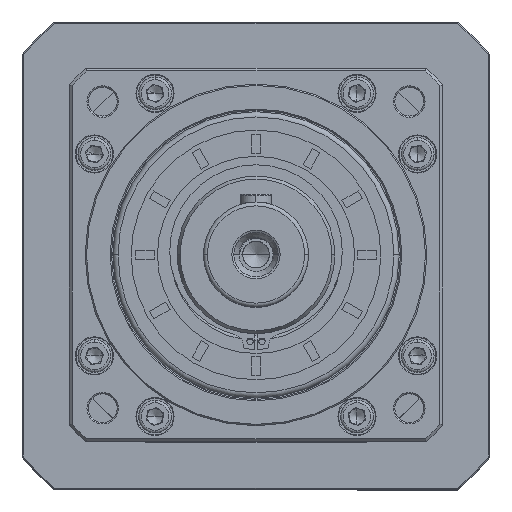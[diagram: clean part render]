
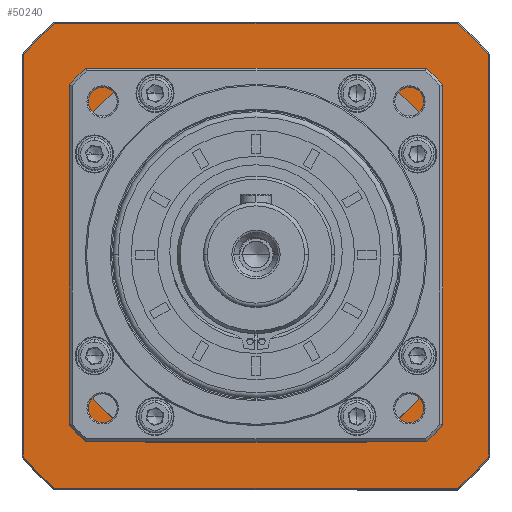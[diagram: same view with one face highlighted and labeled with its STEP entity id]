
A CAD part, top view. The second image highlights one B-rep face of the part: STEP entity #50240.
In plain terms, the highlighted planar face has unit normal (0, 0, 1).
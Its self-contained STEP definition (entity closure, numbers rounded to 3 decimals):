
#1721 = ORIENTED_EDGE ( 'NONE', *, *, #45747, .T. ) ;
#1893 = AXIS2_PLACEMENT_3D ( 'NONE', #107572, #9900, #59367 ) ;
#4185 = ORIENTED_EDGE ( 'NONE', *, *, #109510, .T. ) ;
#4205 = CARTESIAN_POINT ( 'NONE',  ( 186.407, -71.278, 165.15 ) ) ;
#4848 = DIRECTION ( 'NONE',  ( 0., 1., 0. ) ) ;
#5600 = CARTESIAN_POINT ( 'NONE',  ( 97.907, -236.307, 165.15 ) ) ;
#5749 = CARTESIAN_POINT ( 'NONE',  ( 228.285, -89.278, 165.15 ) ) ;
#6339 = DIRECTION ( 'NONE',  ( 0., 0., -1. ) ) ;
#7157 = DIRECTION ( 'NONE',  ( 1., 0., 0. ) ) ;
#7460 = VERTEX_POINT ( 'NONE', #16515 ) ;
#8124 = CIRCLE ( 'NONE', #110316, 117. ) ;
#8673 = EDGE_LOOP ( 'NONE', ( #14792, #121486, #4185, #17467, #84646, #32456, #45013, #97187 ) ) ;
#9071 = DIRECTION ( 'NONE',  ( -1., 0., 0. ) ) ;
#9676 = LINE ( 'NONE', #4205, #113424 ) ;
#9900 = DIRECTION ( 'NONE',  ( 0., 0., 1. ) ) ;
#10310 = CARTESIAN_POINT ( 'NONE',  ( 115.907, -117.9, 165.15 ) ) ;
#10880 = VECTOR ( 'NONE', #4848, 1000. ) ;
#11850 = VERTEX_POINT ( 'NONE', #107260 ) ;
#13795 = CARTESIAN_POINT ( 'NONE',  ( 115.907, -117.763, 165.15 ) ) ;
#14480 = CARTESIAN_POINT ( 'NONE',  ( 186.407, -159.778, 165.15 ) ) ;
#14792 = ORIENTED_EDGE ( 'NONE', *, *, #34849, .T. ) ;
#16507 = DIRECTION ( 'NONE',  ( 0., 0., -1. ) ) ;
#16515 = CARTESIAN_POINT ( 'NONE',  ( 274.907, -83.248, 165.15 ) ) ;
#17467 = ORIENTED_EDGE ( 'NONE', *, *, #94946, .T. ) ;
#18162 = CIRCLE ( 'NONE', #71064, 117. ) ;
#18331 = VERTEX_POINT ( 'NONE', #10310 ) ;
#18880 = AXIS2_PLACEMENT_3D ( 'NONE', #14480, #121474, #63908 ) ;
#19782 = VERTEX_POINT ( 'NONE', #43487 ) ;
#22851 = LINE ( 'NONE', #103843, #30459 ) ;
#23020 = LINE ( 'NONE', #13795, #10880 ) ;
#24371 = CARTESIAN_POINT ( 'NONE',  ( 228.422, -89.278, 165.15 ) ) ;
#24574 = CARTESIAN_POINT ( 'NONE',  ( 186.407, -159.778, 165.15 ) ) ;
#25722 = ORIENTED_EDGE ( 'NONE', *, *, #54461, .T. ) ;
#26218 = VERTEX_POINT ( 'NONE', #26355 ) ;
#26355 = CARTESIAN_POINT ( 'NONE',  ( 144.53, -89.278, 165.15 ) ) ;
#26484 = DIRECTION ( 'NONE',  ( -1., 0., 0. ) ) ;
#27614 = CIRCLE ( 'NONE', #41519, 82. ) ;
#28370 = VECTOR ( 'NONE', #108797, 1000. ) ;
#29613 = VECTOR ( 'NONE', #98703, 1000. ) ;
#30064 = EDGE_CURVE ( 'NONE', #62710, #19782, #8124, .T. ) ;
#30335 = EDGE_LOOP ( 'NONE', ( #1721, #126497, #101005, #54876, #88547, #93653, #68909, #25722 ) ) ;
#30459 = VECTOR ( 'NONE', #47945, 1000. ) ;
#31438 = LINE ( 'NONE', #69615, #28370 ) ;
#31561 = EDGE_CURVE ( 'NONE', #64957, #7460, #57975, .T. ) ;
#32456 = ORIENTED_EDGE ( 'NONE', *, *, #61820, .T. ) ;
#33541 = DIRECTION ( 'NONE',  ( -1., 0., 0. ) ) ;
#33629 = CARTESIAN_POINT ( 'NONE',  ( 274.907, -159.778, 165.15 ) ) ;
#34849 = EDGE_CURVE ( 'NONE', #19782, #37791, #75516, .T. ) ;
#35247 = VERTEX_POINT ( 'NONE', #35882 ) ;
#35882 = CARTESIAN_POINT ( 'NONE',  ( 115.907, -201.656, 165.15 ) ) ;
#37791 = VERTEX_POINT ( 'NONE', #5600 ) ;
#39330 = CIRCLE ( 'NONE', #18880, 117. ) ;
#40074 = VERTEX_POINT ( 'NONE', #98102 ) ;
#41456 = CARTESIAN_POINT ( 'NONE',  ( 262.937, -248.278, 165.15 ) ) ;
#41519 = AXIS2_PLACEMENT_3D ( 'NONE', #103750, #96111, #76559 ) ;
#43487 = CARTESIAN_POINT ( 'NONE',  ( 97.907, -83.248, 165.15 ) ) ;
#45013 = ORIENTED_EDGE ( 'NONE', *, *, #68780, .T. ) ;
#45747 = EDGE_CURVE ( 'NONE', #18331, #26218, #74866, .T. ) ;
#47798 = CARTESIAN_POINT ( 'NONE',  ( 109.878, -71.278, 165.15 ) ) ;
#47945 = DIRECTION ( 'NONE',  ( 1., 0., 0. ) ) ;
#48603 = CARTESIAN_POINT ( 'NONE',  ( 186.407, -159.778, 165.15 ) ) ;
#48748 = VERTEX_POINT ( 'NONE', #5749 ) ;
#49223 = FACE_OUTER_BOUND ( 'NONE', #8673, .T. ) ;
#50240 = ADVANCED_FACE ( 'NONE', ( #49223, #119480 ), #116810, .F. ) ;
#54461 = EDGE_CURVE ( 'NONE', #35247, #18331, #23020, .T. ) ;
#54876 = ORIENTED_EDGE ( 'NONE', *, *, #95473, .T. ) ;
#57692 = DIRECTION ( 'NONE',  ( 0., 0., 1. ) ) ;
#57975 = LINE ( 'NONE', #33629, #80923 ) ;
#58796 = DIRECTION ( 'NONE',  ( 0., -1., 0. ) ) ;
#59296 = EDGE_CURVE ( 'NONE', #95302, #11850, #31438, .T. ) ;
#59367 = DIRECTION ( 'NONE',  ( -1., 0., 0. ) ) ;
#61820 = EDGE_CURVE ( 'NONE', #7460, #93093, #18162, .T. ) ;
#62710 = VERTEX_POINT ( 'NONE', #47798 ) ;
#63908 = DIRECTION ( 'NONE',  ( -1., 0., 0. ) ) ;
#64957 = VERTEX_POINT ( 'NONE', #71973 ) ;
#66539 = CARTESIAN_POINT ( 'NONE',  ( 228.285, -230.278, 165.15 ) ) ;
#66719 = AXIS2_PLACEMENT_3D ( 'NONE', #48603, #107107, #86233 ) ;
#67680 = DIRECTION ( 'NONE',  ( 0., 0., 1. ) ) ;
#68270 = DIRECTION ( 'NONE',  ( 0., 0., -1. ) ) ;
#68780 = EDGE_CURVE ( 'NONE', #93093, #62710, #9676, .T. ) ;
#68909 = ORIENTED_EDGE ( 'NONE', *, *, #72212, .T. ) ;
#69615 = CARTESIAN_POINT ( 'NONE',  ( 144.392, -230.278, 165.15 ) ) ;
#70086 = AXIS2_PLACEMENT_3D ( 'NONE', #75025, #16507, #7157 ) ;
#71064 = AXIS2_PLACEMENT_3D ( 'NONE', #96098, #57692, #26484 ) ;
#71973 = CARTESIAN_POINT ( 'NONE',  ( 274.907, -236.307, 165.15 ) ) ;
#72080 = CARTESIAN_POINT ( 'NONE',  ( 262.937, -71.278, 165.15 ) ) ;
#72212 = EDGE_CURVE ( 'NONE', #11850, #35247, #112142, .T. ) ;
#74866 = CIRCLE ( 'NONE', #70086, 82. ) ;
#75025 = CARTESIAN_POINT ( 'NONE',  ( 186.407, -159.778, 165.15 ) ) ;
#75516 = LINE ( 'NONE', #99533, #29613 ) ;
#76559 = DIRECTION ( 'NONE',  ( 1., 0., 0. ) ) ;
#76638 = VERTEX_POINT ( 'NONE', #81226 ) ;
#76817 = DIRECTION ( 'NONE',  ( -1., 0., 0. ) ) ;
#78404 = VERTEX_POINT ( 'NONE', #41456 ) ;
#80923 = VECTOR ( 'NONE', #110879, 1000. ) ;
#81226 = CARTESIAN_POINT ( 'NONE',  ( 256.907, -117.9, 165.15 ) ) ;
#83534 = DIRECTION ( 'NONE',  ( 1., 0., 0. ) ) ;
#84646 = ORIENTED_EDGE ( 'NONE', *, *, #31561, .T. ) ;
#85604 = AXIS2_PLACEMENT_3D ( 'NONE', #24574, #6339, #83534 ) ;
#86233 = DIRECTION ( 'NONE',  ( 1., 0., 0. ) ) ;
#88547 = ORIENTED_EDGE ( 'NONE', *, *, #115262, .T. ) ;
#93093 = VERTEX_POINT ( 'NONE', #72080 ) ;
#93653 = ORIENTED_EDGE ( 'NONE', *, *, #59296, .T. ) ;
#94946 = EDGE_CURVE ( 'NONE', #78404, #64957, #107603, .T. ) ;
#95302 = VERTEX_POINT ( 'NONE', #66539 ) ;
#95473 = EDGE_CURVE ( 'NONE', #76638, #40074, #105710, .T. ) ;
#96098 = CARTESIAN_POINT ( 'NONE',  ( 186.407, -159.778, 165.15 ) ) ;
#96111 = DIRECTION ( 'NONE',  ( 0., 0., -1. ) ) ;
#97187 = ORIENTED_EDGE ( 'NONE', *, *, #30064, .T. ) ;
#98102 = CARTESIAN_POINT ( 'NONE',  ( 256.907, -201.656, 165.15 ) ) ;
#98703 = DIRECTION ( 'NONE',  ( 0., -1., 0. ) ) ;
#99533 = CARTESIAN_POINT ( 'NONE',  ( 97.907, -159.778, 165.15 ) ) ;
#100355 = CARTESIAN_POINT ( 'NONE',  ( 186.407, -159.778, 165.15 ) ) ;
#101005 = ORIENTED_EDGE ( 'NONE', *, *, #125296, .T. ) ;
#102188 = VECTOR ( 'NONE', #102438, 1000. ) ;
#102438 = DIRECTION ( 'NONE',  ( 1., 0., 0. ) ) ;
#103750 = CARTESIAN_POINT ( 'NONE',  ( 186.407, -159.778, 165.15 ) ) ;
#103843 = CARTESIAN_POINT ( 'NONE',  ( 186.407, -248.278, 165.15 ) ) ;
#105710 = LINE ( 'NONE', #117208, #121017 ) ;
#105834 = CARTESIAN_POINT ( 'NONE',  ( 109.878, -248.278, 165.15 ) ) ;
#107107 = DIRECTION ( 'NONE',  ( 0., 0., -1. ) ) ;
#107260 = CARTESIAN_POINT ( 'NONE',  ( 144.53, -230.278, 165.15 ) ) ;
#107572 = CARTESIAN_POINT ( 'NONE',  ( 186.407, -159.778, 165.15 ) ) ;
#107603 = CIRCLE ( 'NONE', #1893, 117. ) ;
#108718 = AXIS2_PLACEMENT_3D ( 'NONE', #115547, #68270, #76817 ) ;
#108797 = DIRECTION ( 'NONE',  ( -1., 0., 0. ) ) ;
#109510 = EDGE_CURVE ( 'NONE', #123663, #78404, #22851, .T. ) ;
#109866 = EDGE_CURVE ( 'NONE', #26218, #48748, #117385, .T. ) ;
#110316 = AXIS2_PLACEMENT_3D ( 'NONE', #100355, #67680, #9071 ) ;
#110879 = DIRECTION ( 'NONE',  ( 0., 1., 0. ) ) ;
#111754 = EDGE_CURVE ( 'NONE', #37791, #123663, #39330, .T. ) ;
#112142 = CIRCLE ( 'NONE', #85604, 82. ) ;
#113424 = VECTOR ( 'NONE', #33541, 1000. ) ;
#115262 = EDGE_CURVE ( 'NONE', #40074, #95302, #124071, .T. ) ;
#115547 = CARTESIAN_POINT ( 'NONE',  ( 186.407, -159.778, 165.15 ) ) ;
#116810 = PLANE ( 'NONE',  #108718 ) ;
#117208 = CARTESIAN_POINT ( 'NONE',  ( 256.907, -201.793, 165.15 ) ) ;
#117385 = LINE ( 'NONE', #24371, #102188 ) ;
#119480 = FACE_BOUND ( 'NONE', #30335, .T. ) ;
#121017 = VECTOR ( 'NONE', #58796, 1000. ) ;
#121474 = DIRECTION ( 'NONE',  ( 0., 0., 1. ) ) ;
#121486 = ORIENTED_EDGE ( 'NONE', *, *, #111754, .T. ) ;
#123663 = VERTEX_POINT ( 'NONE', #105834 ) ;
#124071 = CIRCLE ( 'NONE', #66719, 82. ) ;
#125296 = EDGE_CURVE ( 'NONE', #48748, #76638, #27614, .T. ) ;
#126497 = ORIENTED_EDGE ( 'NONE', *, *, #109866, .T. ) ;
